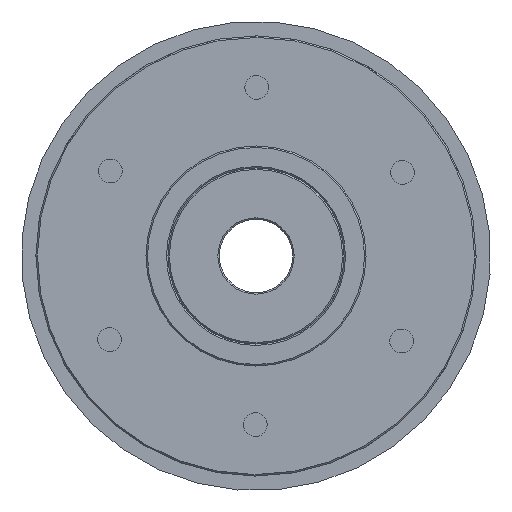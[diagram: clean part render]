
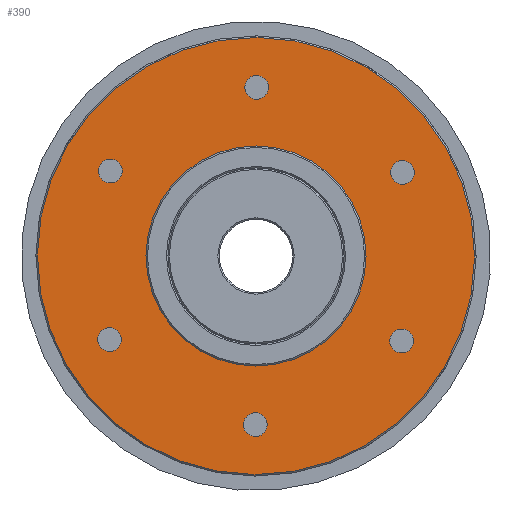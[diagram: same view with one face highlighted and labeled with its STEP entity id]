
A CAD part, left-side view. The second image highlights one B-rep face of the part: STEP entity #390.
In plain terms, the highlighted planar face has unit normal (-1, 0, 0).
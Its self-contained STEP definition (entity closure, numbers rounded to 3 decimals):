
#390 = ADVANCED_FACE( '', ( #779, #780, #781, #782, #783, #784, #785, #786 ), #787, .T. );
#779 = FACE_BOUND( '', #1264, .T. );
#780 = FACE_BOUND( '', #1265, .T. );
#781 = FACE_BOUND( '', #1266, .T. );
#782 = FACE_BOUND( '', #1267, .T. );
#783 = FACE_BOUND( '', #1268, .T. );
#784 = FACE_BOUND( '', #1269, .T. );
#785 = FACE_OUTER_BOUND( '', #1270, .T. );
#786 = FACE_BOUND( '', #1271, .T. );
#787 = PLANE( '', #1272 );
#1264 = EDGE_LOOP( '', ( #1842 ) );
#1265 = EDGE_LOOP( '', ( #1843 ) );
#1266 = EDGE_LOOP( '', ( #1844 ) );
#1267 = EDGE_LOOP( '', ( #1845 ) );
#1268 = EDGE_LOOP( '', ( #1846 ) );
#1269 = EDGE_LOOP( '', ( #1847 ) );
#1270 = EDGE_LOOP( '', ( #1848 ) );
#1271 = EDGE_LOOP( '', ( #1849 ) );
#1272 = AXIS2_PLACEMENT_3D( '', #1850, #1851, #1852 );
#1842 = ORIENTED_EDGE( '', *, *, #2483, .T. );
#1843 = ORIENTED_EDGE( '', *, *, #2484, .T. );
#1844 = ORIENTED_EDGE( '', *, *, #2485, .T. );
#1845 = ORIENTED_EDGE( '', *, *, #2348, .T. );
#1846 = ORIENTED_EDGE( '', *, *, #2486, .T. );
#1847 = ORIENTED_EDGE( '', *, *, #2487, .T. );
#1848 = ORIENTED_EDGE( '', *, *, #2488, .T. );
#1849 = ORIENTED_EDGE( '', *, *, #2489, .F. );
#1850 = CARTESIAN_POINT( '', ( 6.3, 0., 15. ) );
#1851 = DIRECTION( '', ( -1., 0., 0. ) );
#1852 = DIRECTION( '', ( 0., 0., 1. ) );
#2348 = EDGE_CURVE( '', #2626, #2626, #2627, .T. );
#2483 = EDGE_CURVE( '', #2841, #2841, #2842, .T. );
#2484 = EDGE_CURVE( '', #2843, #2843, #2844, .T. );
#2485 = EDGE_CURVE( '', #2845, #2845, #2846, .T. );
#2486 = EDGE_CURVE( '', #2847, #2847, #2848, .T. );
#2487 = EDGE_CURVE( '', #2849, #2849, #2850, .T. );
#2488 = EDGE_CURVE( '', #2851, #2851, #2852, .T. );
#2489 = EDGE_CURVE( '', #2853, #2853, #2854, .T. );
#2626 = VERTEX_POINT( '', #3036 );
#2627 = CIRCLE( '', #3037, 1.621 );
#2841 = VERTEX_POINT( '', #3334 );
#2842 = CIRCLE( '', #3335, 1.621 );
#2843 = VERTEX_POINT( '', #3336 );
#2844 = CIRCLE( '', #3337, 1.621 );
#2845 = VERTEX_POINT( '', #3338 );
#2846 = CIRCLE( '', #3339, 1.621 );
#2847 = VERTEX_POINT( '', #3340 );
#2848 = CIRCLE( '', #3341, 1.621 );
#2849 = VERTEX_POINT( '', #3342 );
#2850 = CIRCLE( '', #3343, 1.621 );
#2851 = VERTEX_POINT( '', #3344 );
#2852 = CIRCLE( '', #3345, 29.8 );
#2853 = VERTEX_POINT( '', #3346 );
#2854 = CIRCLE( '', #3347, 15. );
#3036 = CARTESIAN_POINT( '', ( 6.3, -21.322, -12.311 ) );
#3037 = AXIS2_PLACEMENT_3D( '', #3994, #3995, #3996 );
#3334 = CARTESIAN_POINT( '', ( 6.3, 21.322, 12.311 ) );
#3335 = AXIS2_PLACEMENT_3D( '', #4183, #4184, #4185 );
#3336 = CARTESIAN_POINT( '', ( 6.3, 21.322, -12.311 ) );
#3337 = AXIS2_PLACEMENT_3D( '', #4186, #4187, #4188 );
#3338 = CARTESIAN_POINT( '', ( 6.3, 0., -24.621 ) );
#3339 = AXIS2_PLACEMENT_3D( '', #4189, #4190, #4191 );
#3340 = CARTESIAN_POINT( '', ( 6.3, -21.322, 12.311 ) );
#3341 = AXIS2_PLACEMENT_3D( '', #4192, #4193, #4194 );
#3342 = CARTESIAN_POINT( '', ( 6.3, 0., 24.621 ) );
#3343 = AXIS2_PLACEMENT_3D( '', #4195, #4196, #4197 );
#3344 = CARTESIAN_POINT( '', ( 6.3, 0., 29.8 ) );
#3345 = AXIS2_PLACEMENT_3D( '', #4198, #4199, #4200 );
#3346 = CARTESIAN_POINT( '', ( 6.3, 0., 15. ) );
#3347 = AXIS2_PLACEMENT_3D( '', #4201, #4202, #4203 );
#3994 = CARTESIAN_POINT( '', ( 6.3, -19.919, -11.5 ) );
#3995 = DIRECTION( '', ( 1., 0., 0. ) );
#3996 = DIRECTION( '', ( 0., -0.866, -0.5 ) );
#4183 = CARTESIAN_POINT( '', ( 6.3, 19.919, 11.5 ) );
#4184 = DIRECTION( '', ( 1., 0., 0. ) );
#4185 = DIRECTION( '', ( 0., 0.866, 0.5 ) );
#4186 = CARTESIAN_POINT( '', ( 6.3, 19.919, -11.5 ) );
#4187 = DIRECTION( '', ( 1., 0., 0. ) );
#4188 = DIRECTION( '', ( 0., 0.866, -0.5 ) );
#4189 = CARTESIAN_POINT( '', ( 6.3, 0., -23. ) );
#4190 = DIRECTION( '', ( 1., 0., 0. ) );
#4191 = DIRECTION( '', ( 0., 0., -1. ) );
#4192 = CARTESIAN_POINT( '', ( 6.3, -19.919, 11.5 ) );
#4193 = DIRECTION( '', ( 1., 0., 0. ) );
#4194 = DIRECTION( '', ( 0., -0.866, 0.5 ) );
#4195 = CARTESIAN_POINT( '', ( 6.3, 0., 23. ) );
#4196 = DIRECTION( '', ( 1., 0., 0. ) );
#4197 = DIRECTION( '', ( 0., 0., 1. ) );
#4198 = CARTESIAN_POINT( '', ( 6.3, 0., 0. ) );
#4199 = DIRECTION( '', ( -1., 0., 0. ) );
#4200 = DIRECTION( '', ( 0., 0., 1. ) );
#4201 = CARTESIAN_POINT( '', ( 6.3, 0., 0. ) );
#4202 = DIRECTION( '', ( -1., 0., 0. ) );
#4203 = DIRECTION( '', ( 0., 0., 1. ) );
